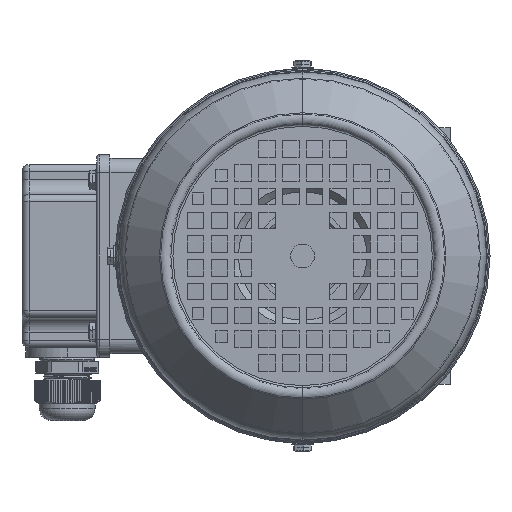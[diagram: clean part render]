
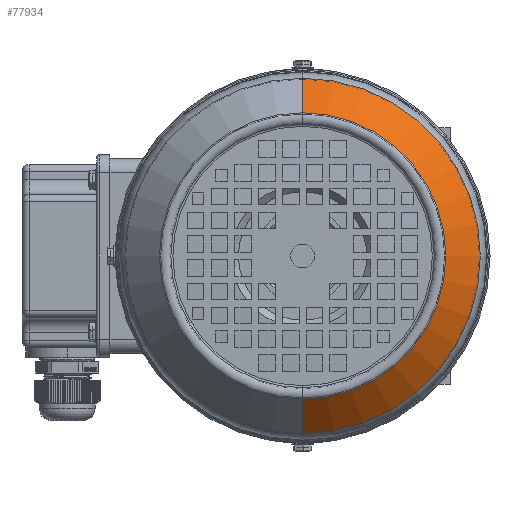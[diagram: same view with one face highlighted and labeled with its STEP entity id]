
A CAD part, left-side view. The second image highlights one B-rep face of the part: STEP entity #77934.
In plain terms, the highlighted conical face has half-angle 41.927 degrees and reference radius 77.3 mm.
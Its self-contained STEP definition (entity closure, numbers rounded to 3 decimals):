
#714 = LINE ( 'NONE', #89134, #70795 ) ;
#2854 = VERTEX_POINT ( 'NONE', #58795 ) ;
#12931 = AXIS2_PLACEMENT_3D ( 'NONE', #49709, #75435, #24657 ) ;
#13345 = CARTESIAN_POINT ( 'NONE',  ( -58.851, 0., -74.74 ) ) ;
#13516 = EDGE_CURVE ( 'NONE', #2854, #75702, #714, .T. ) ;
#16795 = ORIENTED_EDGE ( 'NONE', *, *, #36620, .T. ) ;
#22642 = CARTESIAN_POINT ( 'NONE',  ( -58.851, 0., 0. ) ) ;
#23573 = DIRECTION ( 'NONE',  ( -1., 0., 0. ) ) ;
#24657 = DIRECTION ( 'NONE',  ( 0., 0., -1. ) ) ;
#24758 = EDGE_LOOP ( 'NONE', ( #51939, #93229, #16795, #39924 ) ) ;
#30942 = DIRECTION ( 'NONE',  ( -1., 0., 0. ) ) ;
#34356 = VECTOR ( 'NONE', #84039, 1000. ) ;
#36620 = EDGE_CURVE ( 'NONE', #92180, #78299, #104518, .T. ) ;
#39413 = DIRECTION ( 'NONE',  ( 0.744, 0., 0.668 ) ) ;
#39924 = ORIENTED_EDGE ( 'NONE', *, *, #88755, .T. ) ;
#40605 = EDGE_CURVE ( 'NONE', #92180, #2854, #63620, .T. ) ;
#47757 = FACE_OUTER_BOUND ( 'NONE', #24758, .T. ) ;
#48262 = DIRECTION ( 'NONE',  ( 0., 0., 1. ) ) ;
#49709 = CARTESIAN_POINT ( 'NONE',  ( -56., 0., 0. ) ) ;
#49777 = AXIS2_PLACEMENT_3D ( 'NONE', #55163, #23573, #48262 ) ;
#51939 = ORIENTED_EDGE ( 'NONE', *, *, #13516, .F. ) ;
#52930 = CONICAL_SURFACE ( 'NONE', #12931, 77.3, 0.732 ) ;
#55163 = CARTESIAN_POINT ( 'NONE',  ( -75.005, 0., 0. ) ) ;
#56625 = CIRCLE ( 'NONE', #84648, 74.74 ) ;
#58795 = CARTESIAN_POINT ( 'NONE',  ( -75.005, 0., 60.232 ) ) ;
#63620 = CIRCLE ( 'NONE', #49777, 60.232 ) ;
#70795 = VECTOR ( 'NONE', #39413, 1000. ) ;
#75318 = CARTESIAN_POINT ( 'NONE',  ( -56., 0., -77.3 ) ) ;
#75435 = DIRECTION ( 'NONE',  ( 1., 0., 0. ) ) ;
#75702 = VERTEX_POINT ( 'NONE', #100225 ) ;
#77934 = ADVANCED_FACE ( 'NONE', ( #47757 ), #52930, .T. ) ;
#78299 = VERTEX_POINT ( 'NONE', #13345 ) ;
#83997 = CARTESIAN_POINT ( 'NONE',  ( -75.005, 0., -60.232 ) ) ;
#84039 = DIRECTION ( 'NONE',  ( 0.744, 0., -0.668 ) ) ;
#84648 = AXIS2_PLACEMENT_3D ( 'NONE', #22642, #30942, #89029 ) ;
#88755 = EDGE_CURVE ( 'NONE', #78299, #75702, #56625, .T. ) ;
#89029 = DIRECTION ( 'NONE',  ( 0., 0., 1. ) ) ;
#89134 = CARTESIAN_POINT ( 'NONE',  ( -56., 0., 77.3 ) ) ;
#92180 = VERTEX_POINT ( 'NONE', #83997 ) ;
#93229 = ORIENTED_EDGE ( 'NONE', *, *, #40605, .F. ) ;
#100225 = CARTESIAN_POINT ( 'NONE',  ( -58.851, 0., 74.74 ) ) ;
#104518 = LINE ( 'NONE', #75318, #34356 ) ;
